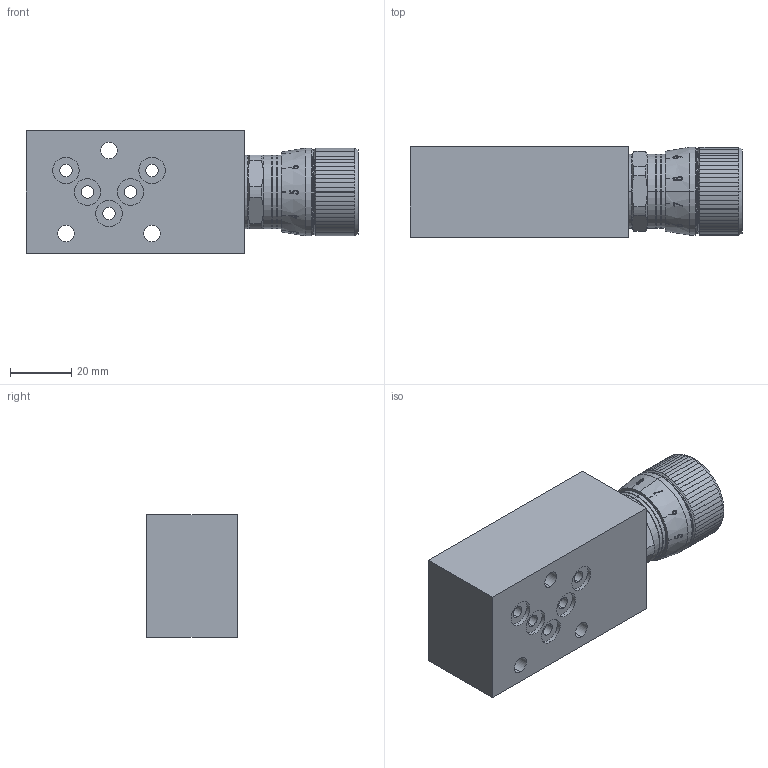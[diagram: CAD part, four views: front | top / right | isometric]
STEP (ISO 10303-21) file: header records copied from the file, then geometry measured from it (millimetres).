
FILE_DESCRIPTION (( 'STEP AP214' ), '1' );
FILE_NAME ('BDRB4.STEP', '2017-04-10T12:47:48', ( '' ), ( '' ), 'SwSTEP 2.0', 'SolidWorks 2016', '' );
FILE_SCHEMA (( 'AUTOMOTIVE_DESIGN' ));
Length unit declared in the file: millimetre
Products named in the file (1): BDRB4
Bounding box: 108 x 29.5 x 40 mm (x, y, z)
Volume: 100363.5 mm3; surface area: 19537.8 mm2
Topology: 1 solids, 1 shells, 621 faces, 1689 edges, 1102 vertices
Faces by surface type: plane 372, cylinder 129, bspline 72, cone 43, torus 5
Entity records: 30456 total; most frequent: CARTESIAN_POINT 9165, ORIENTED_EDGE 3366, DIRECTION 2474, EDGE_CURVE 1683, VERTEX_POINT 1102, AXIS2_PLACEMENT_3D 896, VECTOR 682, LINE 682
